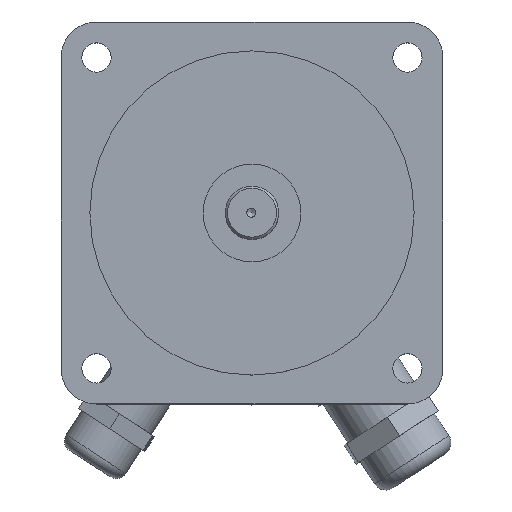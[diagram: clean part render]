
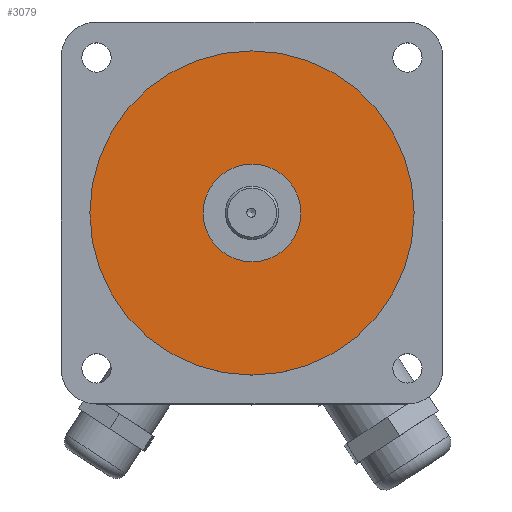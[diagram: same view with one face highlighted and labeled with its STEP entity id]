
A CAD part, top view. The second image highlights one B-rep face of the part: STEP entity #3079.
In plain terms, the highlighted planar face has unit normal (0, 0, 1).
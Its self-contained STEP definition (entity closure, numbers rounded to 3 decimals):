
#3016=CARTESIAN_POINT('',(-80.773,-89.811,85.505));
#3017=VERTEX_POINT('',#3016);
#3018=CARTESIAN_POINT('',(-69.773,-89.811,85.505));
#3019=DIRECTION('',(0.0,0.0,-1.0));
#3020=DIRECTION('',(1.0,0.0,0.0));
#3021=AXIS2_PLACEMENT_3D('',#3018,#3019,#3020);
#3022=CIRCLE('',#3021,11.0);
#3023=EDGE_CURVE('',#3017,#3017,#3022,.T.);
#3045=CARTESIAN_POINT('',(-106.273,-89.811,85.505));
#3046=VERTEX_POINT('',#3045);
#3047=CARTESIAN_POINT('',(-69.773,-89.811,85.505));
#3048=DIRECTION('',(0.0,0.0,-1.0));
#3049=DIRECTION('',(1.0,0.0,0.0));
#3050=AXIS2_PLACEMENT_3D('',#3047,#3048,#3049);
#3051=CIRCLE('',#3050,36.5);
#3052=EDGE_CURVE('',#3046,#3046,#3051,.T.);
#3068=CARTESIAN_POINT('',(-69.773,-89.811,85.505));
#3069=DIRECTION('',(0.0,0.0,-1.0));
#3070=DIRECTION('',(1.0,0.0,0.0));
#3071=AXIS2_PLACEMENT_3D('',#3068,#3069,#3070);
#3072=PLANE('',#3071);
#3073=ORIENTED_EDGE('',*,*,#3052,.F.);
#3074=EDGE_LOOP('',(#3073));
#3075=FACE_OUTER_BOUND('',#3074,.T.);
#3076=ORIENTED_EDGE('',*,*,#3023,.T.);
#3077=EDGE_LOOP('',(#3076));
#3078=FACE_BOUND('',#3077,.T.);
#3079=ADVANCED_FACE('',(#3075,#3078),#3072,.F.);
